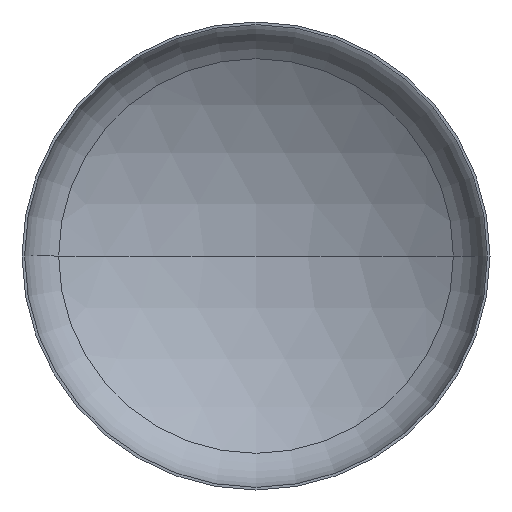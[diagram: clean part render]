
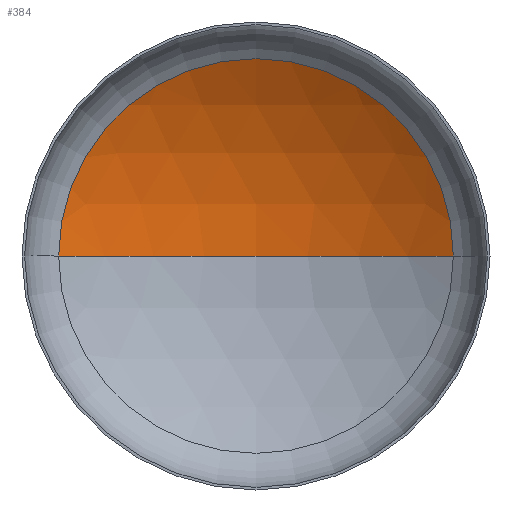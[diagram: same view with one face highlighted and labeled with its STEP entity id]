
A CAD part, front view. The second image highlights one B-rep face of the part: STEP entity #384.
In plain terms, the highlighted spherical face has radius 6400 mm.
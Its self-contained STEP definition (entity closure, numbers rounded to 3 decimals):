
#47 = AXIS2_PLACEMENT_3D ( 'NONE', #67, #61, #208 ) ;
#50 = AXIS2_PLACEMENT_3D ( 'NONE', #204, #206, #198 ) ;
#52 = AXIS2_PLACEMENT_3D ( 'NONE', #184, #291, #290 ) ;
#61 = DIRECTION ( 'NONE',  ( 0., 0., 1. ) ) ;
#64 = VERTEX_POINT ( 'NONE', #223 ) ;
#67 = CARTESIAN_POINT ( 'NONE',  ( 0., -4253.549, 0. ) ) ;
#68 = VERTEX_POINT ( 'NONE', #226 ) ;
#92 = EDGE_CURVE ( 'NONE', #126, #64, #403, .T. ) ;
#94 = EDGE_CURVE ( 'NONE', #68, #126, #285, .T. ) ;
#97 = EDGE_CURVE ( 'NONE', #68, #64, #219, .T. ) ;
#113 = CARTESIAN_POINT ( 'NONE',  ( 0., -4253.549, 0. ) ) ;
#119 = ORIENTED_EDGE ( 'NONE', *, *, #92, .T. ) ;
#126 = VERTEX_POINT ( 'NONE', #221 ) ;
#142 = EDGE_LOOP ( 'NONE', ( #171, #324, #119 ) ) ;
#171 = ORIENTED_EDGE ( 'NONE', *, *, #97, .F. ) ;
#184 = CARTESIAN_POINT ( 'NONE',  ( 0., 1185.274, 0. ) ) ;
#198 = DIRECTION ( 'NONE',  ( -1., 0., 0. ) ) ;
#204 = CARTESIAN_POINT ( 'NONE',  ( 0., -4253.549, 0. ) ) ;
#206 = DIRECTION ( 'NONE',  ( 0., 0., -1. ) ) ;
#208 = DIRECTION ( 'NONE',  ( 1., 0., 0. ) ) ;
#219 = CIRCLE ( 'NONE', #47, 6400. ) ;
#221 = CARTESIAN_POINT ( 'NONE',  ( 3373.308, 1185.274, 0. ) ) ;
#223 = CARTESIAN_POINT ( 'NONE',  ( -3373.308, 1185.274, 0. ) ) ;
#226 = CARTESIAN_POINT ( 'NONE',  ( 0., 2146.451, 0. ) ) ;
#285 = CIRCLE ( 'NONE', #50, 6400. ) ;
#286 = AXIS2_PLACEMENT_3D ( 'NONE', #113, #396, #287 ) ;
#287 = DIRECTION ( 'NONE',  ( -1., 0., 0. ) ) ;
#289 = SPHERICAL_SURFACE ( 'NONE', #286, 6400. ) ;
#290 = DIRECTION ( 'NONE',  ( 1., 0., 0. ) ) ;
#291 = DIRECTION ( 'NONE',  ( 0., -1., 0. ) ) ;
#324 = ORIENTED_EDGE ( 'NONE', *, *, #94, .T. ) ;
#352 = FACE_OUTER_BOUND ( 'NONE', #142, .T. ) ;
#384 = ADVANCED_FACE ( 'NONE', ( #352 ), #289, .F. ) ;
#396 = DIRECTION ( 'NONE',  ( 0., 0., -1. ) ) ;
#403 = CIRCLE ( 'NONE', #52, 3373.308 ) ;
